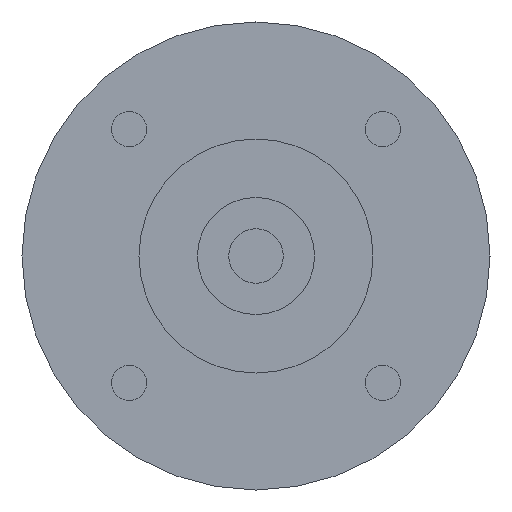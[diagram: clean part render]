
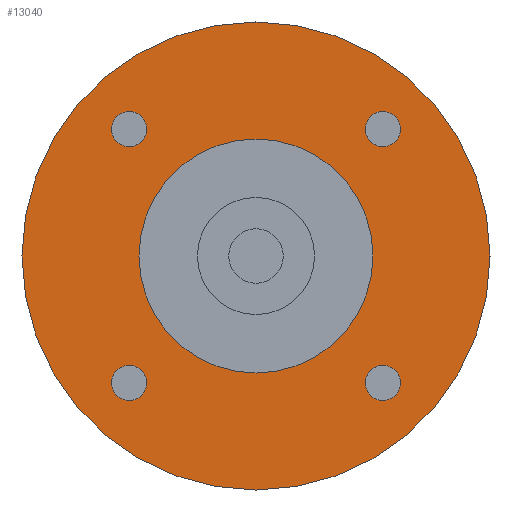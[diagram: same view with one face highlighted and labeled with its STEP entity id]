
A CAD part, left-side view. The second image highlights one B-rep face of the part: STEP entity #13040.
In plain terms, the highlighted planar face has unit normal (-1, 0, 0) as drawn and (0, 0, -1) by its records, which use the part's own axes.
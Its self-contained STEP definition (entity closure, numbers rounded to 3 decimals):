
#8700=CARTESIAN_POINT('',(-30.,0.,-35.));
#8710=VERTEX_POINT('',#8700);
#8910=CARTESIAN_POINT('',(30.,0.,-35.));
#8920=VERTEX_POINT('',#8910);
#8950=CARTESIAN_POINT('',(0.,0.,-35.
));
#8960=DIRECTION('',(0.,0.,1.));
#8970=DIRECTION('',(1.,0.,0.));
#8980=AXIS2_PLACEMENT_3D('',#8950,#8960,#8970);
#8990=CIRCLE('',#8980,30.);
#9000=CARTESIAN_POINT('',(0.,-30.,-35.));
#9010=VERTEX_POINT('',#9000);
#9020=EDGE_CURVE('',#9010,#8920,#8990,.T.);
#9040=EDGE_CURVE('',#8710,#9010,#8990,.T.);
#12010=CARTESIAN_POINT('',(-16.263,-14.013,-35.));
#12020=VERTEX_POINT('',#12010);
#12050=CARTESIAN_POINT('',(-16.263,-16.263,-35.));
#12060=DIRECTION('',(0.,0.,-1.));
#12070=DIRECTION('',(0.,-1.,0.));
#12080=AXIS2_PLACEMENT_3D('',#12050,#12060,#12070);
#12090=CIRCLE('',#12080,2.25);
#12100=CARTESIAN_POINT('',(-16.263,-18.513,-35.));
#12110=VERTEX_POINT('',#12100);
#12120=EDGE_CURVE('',#12110,#12020,#12090,.T.);
#12240=CARTESIAN_POINT('',(0.,0.,
-35.));
#12250=DIRECTION('',(0.,0.,-1.));
#12260=DIRECTION('',(1.,0.,0.));
#12270=AXIS2_PLACEMENT_3D('',#12240,#12250,#12260);
#12280=PLANE('',#12270);
#12290=CARTESIAN_POINT('',(16.263,16.263,-35.));
#12300=DIRECTION('',(0.,0.,-1.));
#12310=DIRECTION('',(0.,1.,0.));
#12320=AXIS2_PLACEMENT_3D('',#12290,#12300,#12310);
#12330=CIRCLE('',#12320,2.25);
#12340=CARTESIAN_POINT('',(16.263,18.513,-35.));
#12350=VERTEX_POINT('',#12340);
#12360=CARTESIAN_POINT('',(16.263,14.013,-35.));
#12370=VERTEX_POINT('',#12360);
#12380=EDGE_CURVE('',#12350,#12370,#12330,.T.);
#12390=ORIENTED_EDGE('',*,*,#12380,.F.);
#12400=EDGE_CURVE('',#12370,#12350,#12330,.T.);
#12410=ORIENTED_EDGE('',*,*,#12400,.F.);
#12420=EDGE_LOOP('',(#12410,#12390));
#12430=FACE_BOUND('',#12420,.T.);
#12440=CARTESIAN_POINT('',(-16.263,16.263,-35.));
#12450=DIRECTION('',(0.,0.,-1.));
#12460=DIRECTION('',(-1.,0.,0.));
#12470=AXIS2_PLACEMENT_3D('',#12440,#12450,#12460);
#12480=CIRCLE('',#12470,2.25);
#12490=CARTESIAN_POINT('',(-18.513,16.263,-35.));
#12500=VERTEX_POINT('',#12490);
#12510=CARTESIAN_POINT('',(-14.013,16.263,-35.));
#12520=VERTEX_POINT('',#12510);
#12530=EDGE_CURVE('',#12500,#12520,#12480,.T.);
#12540=ORIENTED_EDGE('',*,*,#12530,.F.);
#12550=EDGE_CURVE('',#12520,#12500,#12480,.T.);
#12560=ORIENTED_EDGE('',*,*,#12550,.F.);
#12570=EDGE_LOOP('',(#12560,#12540));
#12580=FACE_BOUND('',#12570,.T.);
#12590=ORIENTED_EDGE('',*,*,#12120,.F.);
#12600=EDGE_CURVE('',#12020,#12110,#12090,.T.);
#12610=ORIENTED_EDGE('',*,*,#12600,.F.);
#12620=EDGE_LOOP('',(#12610,#12590));
#12630=FACE_BOUND('',#12620,.T.);
#12640=CARTESIAN_POINT('',(0.,0.,
-35.));
#12650=DIRECTION('',(0.,0.,1.));
#12660=DIRECTION('',(0.,1.,0.));
#12670=AXIS2_PLACEMENT_3D('',#12640,#12650,#12660);
#12680=CIRCLE('',#12670,15.);
#12690=CARTESIAN_POINT('',(-15.,0.,-35.));
#12700=VERTEX_POINT('',#12690);
#12710=CARTESIAN_POINT('',(15.,0.,-35.));
#12720=VERTEX_POINT('',#12710);
#12730=EDGE_CURVE('',#12700,#12720,#12680,.T.);
#12740=ORIENTED_EDGE('',*,*,#12730,.T.);
#12750=CARTESIAN_POINT('',(0.,15.,-35.));
#12760=VERTEX_POINT('',#12750);
#12770=EDGE_CURVE('',#12760,#12700,#12680,.T.);
#12780=ORIENTED_EDGE('',*,*,#12770,.T.);
#12790=EDGE_CURVE('',#12720,#12760,#12680,.T.);
#12800=ORIENTED_EDGE('',*,*,#12790,.T.);
#12810=EDGE_LOOP('',(#12800,#12780,#12740));
#12820=FACE_BOUND('',#12810,.T.);
#12830=CARTESIAN_POINT('',(16.263,-16.263,-35.));
#12840=DIRECTION('',(0.,0.,-1.));
#12850=DIRECTION('',(1.,0.,0.));
#12860=AXIS2_PLACEMENT_3D('',#12830,#12840,#12850);
#12870=CIRCLE('',#12860,2.25);
#12880=CARTESIAN_POINT('',(18.513,-16.263,-35.));
#12890=VERTEX_POINT('',#12880);
#12900=CARTESIAN_POINT('',(14.013,-16.263,-35.));
#12910=VERTEX_POINT('',#12900);
#12920=EDGE_CURVE('',#12890,#12910,#12870,.T.);
#12930=ORIENTED_EDGE('',*,*,#12920,.F.);
#12940=EDGE_CURVE('',#12910,#12890,#12870,.T.);
#12950=ORIENTED_EDGE('',*,*,#12940,.F.);
#12960=EDGE_LOOP('',(#12950,#12930));
#12970=FACE_BOUND('',#12960,.T.);
#12980=ORIENTED_EDGE('',*,*,#9020,.F.);
#12990=EDGE_CURVE('',#8920,#8710,#8990,.T.);
#13000=ORIENTED_EDGE('',*,*,#12990,.F.);
#13010=ORIENTED_EDGE('',*,*,#9040,.F.);
#13020=EDGE_LOOP('',(#13010,#13000,#12980));
#13030=FACE_OUTER_BOUND('',#13020,.T.);
#13040=ADVANCED_FACE('',(#12430,#12580,#12630,#12820,#12970,#13030),
#12280,.T.);
